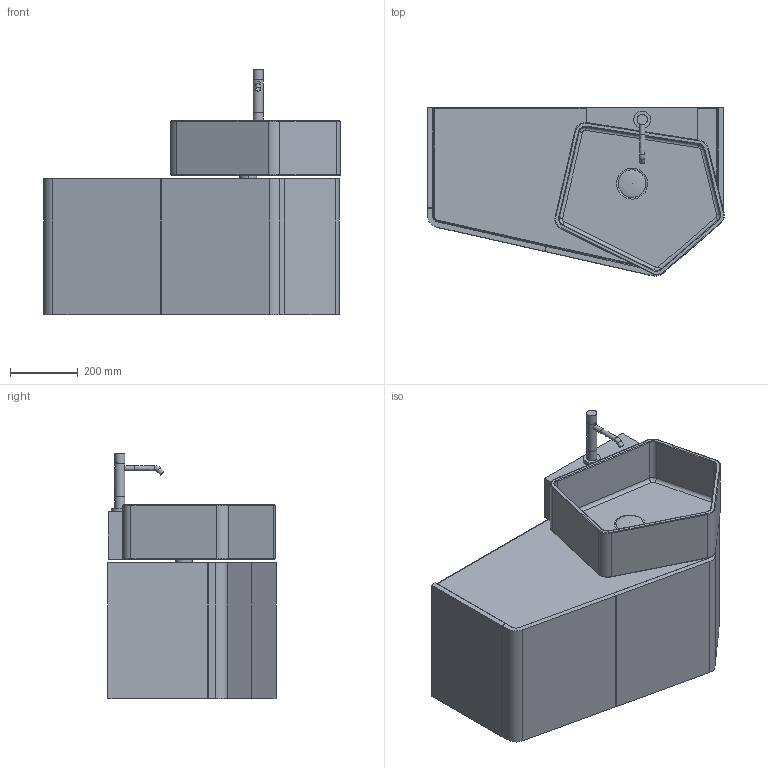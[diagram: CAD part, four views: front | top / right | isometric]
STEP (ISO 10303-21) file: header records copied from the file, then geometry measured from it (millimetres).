
FILE_DESCRIPTION(/* description */ (''),/* implementation_level */ '2;1');
FILE_NAME(/* name */ 'kanto87',/* time_stamp */ '2024-10-07T11:10:36+02:00',/* author */ (''),/* organization */ (''),/* preprocessor_version */ 'ST-DEVELOPER v16.5',/* originating_system */ 'Rhino 7.27',/* authorisation */ '');
FILE_SCHEMA (('CONFIG_CONTROL_DESIGN'));
Length unit declared in the file: millimetre
Products named in the file (1): Document
Bounding box: 873 x 494.32 x 721.77 mm (x, y, z)
Volume: 35354849.7 mm3; surface area: 4435916 mm2
Topology: 14 solids, 20 shells, 234 faces, 518 edges, 316 vertices
Faces by surface type: plane 100, cylinder 88, bspline 46
Full cylindrical faces by diameter (mm): 10 x8, 15 x1, 30 x3, 31.516 x1, 32 x1, 44 x2, 50 x3, 70 x1, 80 x2
Entity records: 6819 total; most frequent: CARTESIAN_POINT 3394, ORIENTED_EDGE 1012, EDGE_CURVE 511, VERTEX_POINT 311, EDGE_LOOP 263, ADVANCED_FACE 234, FACE_OUTER_BOUND 234, DIRECTION 196
